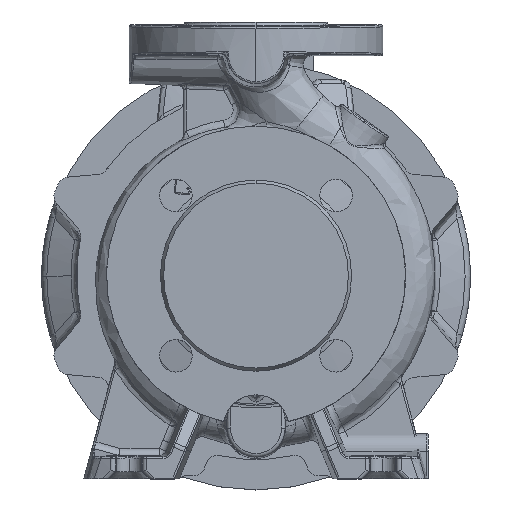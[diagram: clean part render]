
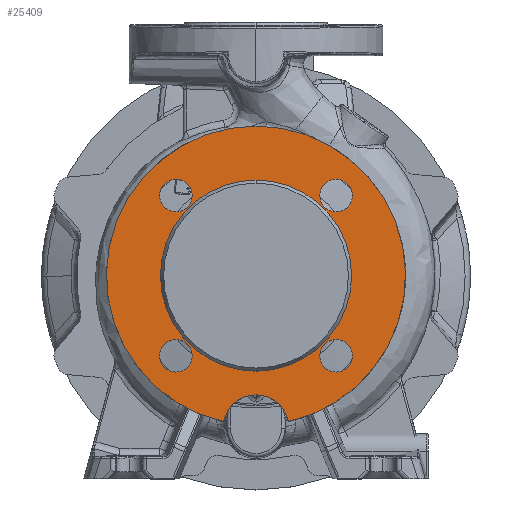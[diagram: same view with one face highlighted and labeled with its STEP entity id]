
A CAD part, top view. The second image highlights one B-rep face of the part: STEP entity #25409.
In plain terms, the highlighted planar face has unit normal (0, 0, 1).
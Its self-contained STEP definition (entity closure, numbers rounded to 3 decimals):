
#777 = VERTEX_POINT ( 'NONE', #36535 ) ;
#1390 = DIRECTION ( 'NONE',  ( 0., 0., -1. ) ) ;
#1797 = CARTESIAN_POINT ( 'NONE',  ( 0., 0., 77. ) ) ;
#2151 = CARTESIAN_POINT ( 'NONE',  ( 44.194, -44.194, 77. ) ) ;
#2339 = DIRECTION ( 'NONE',  ( 0., 0., -1. ) ) ;
#2580 = EDGE_CURVE ( 'NONE', #20222, #44824, #29458, .T. ) ;
#3162 = DIRECTION ( 'NONE',  ( 0., 1., 0. ) ) ;
#4179 = EDGE_CURVE ( 'NONE', #49673, #777, #21700, .T. ) ;
#5679 = FACE_BOUND ( 'NONE', #45994, .T. ) ;
#7008 = VERTEX_POINT ( 'NONE', #53145 ) ;
#7852 = CARTESIAN_POINT ( 'NONE',  ( 0., 0., 77. ) ) ;
#8052 = CIRCLE ( 'NONE', #44493, 52.732 ) ;
#8360 = CARTESIAN_POINT ( 'NONE',  ( -35.194, -44.194, 77. ) ) ;
#8425 = ORIENTED_EDGE ( 'NONE', *, *, #36696, .F. ) ;
#8695 = AXIS2_PLACEMENT_3D ( 'NONE', #1797, #1390, #23789 ) ;
#9381 = DIRECTION ( 'NONE',  ( 0., 0., -1. ) ) ;
#9614 = DIRECTION ( 'NONE',  ( 0., 1., 0. ) ) ;
#10031 = CARTESIAN_POINT ( 'NONE',  ( -44.194, 44.194, 77. ) ) ;
#10103 = EDGE_CURVE ( 'NONE', #777, #49673, #43086, .T. ) ;
#10115 = VERTEX_POINT ( 'NONE', #19150 ) ;
#10507 = AXIS2_PLACEMENT_3D ( 'NONE', #33006, #51494, #47153 ) ;
#11155 = ORIENTED_EDGE ( 'NONE', *, *, #46199, .T. ) ;
#11885 = VERTEX_POINT ( 'NONE', #33508 ) ;
#12420 = EDGE_CURVE ( 'NONE', #7008, #57667, #8052, .T. ) ;
#12558 = EDGE_LOOP ( 'NONE', ( #22058, #40039 ) ) ;
#13225 = AXIS2_PLACEMENT_3D ( 'NONE', #7852, #57607, #17367 ) ;
#13452 = CARTESIAN_POINT ( 'NONE',  ( 44.194, 44.194, 77. ) ) ;
#14702 = AXIS2_PLACEMENT_3D ( 'NONE', #10031, #36804, #50510 ) ;
#15077 = ORIENTED_EDGE ( 'NONE', *, *, #4179, .T. ) ;
#15801 = EDGE_LOOP ( 'NONE', ( #46357, #8425, #28223 ) ) ;
#16114 = CARTESIAN_POINT ( 'NONE',  ( 44.194, -44.194, 77. ) ) ;
#16981 = FACE_BOUND ( 'NONE', #12558, .T. ) ;
#17367 = DIRECTION ( 'NONE',  ( 0., 1., 0. ) ) ;
#17683 = CIRCLE ( 'NONE', #27917, 9. ) ;
#18600 = CIRCLE ( 'NONE', #19880, 9. ) ;
#18853 = EDGE_CURVE ( 'NONE', #57667, #7008, #34411, .T. ) ;
#19150 = CARTESIAN_POINT ( 'NONE',  ( 35.194, -44.194, 77. ) ) ;
#19605 = EDGE_CURVE ( 'NONE', #44824, #51648, #35724, .T. ) ;
#19880 = AXIS2_PLACEMENT_3D ( 'NONE', #16114, #21045, #29953 ) ;
#20222 = VERTEX_POINT ( 'NONE', #45704 ) ;
#20326 = VERTEX_POINT ( 'NONE', #39847 ) ;
#20600 = CARTESIAN_POINT ( 'NONE',  ( -44.194, -44.194, 77. ) ) ;
#21045 = DIRECTION ( 'NONE',  ( 0., 0., -1. ) ) ;
#21700 = CIRCLE ( 'NONE', #10507, 9. ) ;
#22058 = ORIENTED_EDGE ( 'NONE', *, *, #45338, .T. ) ;
#22073 = DIRECTION ( 'NONE',  ( 0., 0., 1. ) ) ;
#22171 = DIRECTION ( 'NONE',  ( 0., 0., -1. ) ) ;
#22930 = CARTESIAN_POINT ( 'NONE',  ( 0., 52.732, 77. ) ) ;
#23046 = CARTESIAN_POINT ( 'NONE',  ( -53.194, -44.194, 77. ) ) ;
#23322 = DIRECTION ( 'NONE',  ( 0., 0., -1. ) ) ;
#23789 = DIRECTION ( 'NONE',  ( 0., 1., 0. ) ) ;
#23984 = ORIENTED_EDGE ( 'NONE', *, *, #18853, .T. ) ;
#24525 = CIRCLE ( 'NONE', #42056, 9. ) ;
#25285 = DIRECTION ( 'NONE',  ( 0., 0., -1. ) ) ;
#25409 = ADVANCED_FACE ( 'NONE', ( #53868, #16981, #51730, #41808, #5679, #36103 ), #40206, .F. ) ;
#26271 = EDGE_LOOP ( 'NONE', ( #15077, #32594 ) ) ;
#26908 = EDGE_LOOP ( 'NONE', ( #35932, #11155 ) ) ;
#27041 = ORIENTED_EDGE ( 'NONE', *, *, #12420, .T. ) ;
#27370 = CARTESIAN_POINT ( 'NONE',  ( 0., -84., 77. ) ) ;
#27420 = CARTESIAN_POINT ( 'NONE',  ( -44.194, -44.194, 77. ) ) ;
#27917 = AXIS2_PLACEMENT_3D ( 'NONE', #52456, #25285, #39356 ) ;
#28223 = ORIENTED_EDGE ( 'NONE', *, *, #19605, .F. ) ;
#29458 = CIRCLE ( 'NONE', #31349, 18.21 ) ;
#29478 = EDGE_CURVE ( 'NONE', #48964, #20326, #48356, .T. ) ;
#29664 = DIRECTION ( 'NONE',  ( 0., 1., 0. ) ) ;
#29953 = DIRECTION ( 'NONE',  ( 0., 1., 0. ) ) ;
#31349 = AXIS2_PLACEMENT_3D ( 'NONE', #27370, #22073, #31718 ) ;
#31718 = DIRECTION ( 'NONE',  ( 0., 1., 0. ) ) ;
#32594 = ORIENTED_EDGE ( 'NONE', *, *, #10103, .T. ) ;
#33006 = CARTESIAN_POINT ( 'NONE',  ( -44.194, 44.194, 77. ) ) ;
#33340 = ORIENTED_EDGE ( 'NONE', *, *, #58364, .T. ) ;
#33508 = CARTESIAN_POINT ( 'NONE',  ( 53.194, -44.194, 77. ) ) ;
#34411 = CIRCLE ( 'NONE', #13225, 52.732 ) ;
#35443 = ORIENTED_EDGE ( 'NONE', *, *, #42276, .T. ) ;
#35724 = CIRCLE ( 'NONE', #8695, 82.5 ) ;
#35932 = ORIENTED_EDGE ( 'NONE', *, *, #29478, .T. ) ;
#36103 = FACE_BOUND ( 'NONE', #26271, .T. ) ;
#36535 = CARTESIAN_POINT ( 'NONE',  ( -53.194, 44.194, 77. ) ) ;
#36696 = EDGE_CURVE ( 'NONE', #51648, #20222, #56181, .T. ) ;
#36804 = DIRECTION ( 'NONE',  ( 0., 0., -1. ) ) ;
#37200 = EDGE_CURVE ( 'NONE', #10115, #11885, #24525, .T. ) ;
#37526 = DIRECTION ( 'NONE',  ( 0., 1., 0. ) ) ;
#39356 = DIRECTION ( 'NONE',  ( 0., 1., 0. ) ) ;
#39847 = CARTESIAN_POINT ( 'NONE',  ( 35.194, 44.194, 77. ) ) ;
#40039 = ORIENTED_EDGE ( 'NONE', *, *, #37200, .T. ) ;
#40206 = PLANE ( 'NONE',  #53861 ) ;
#41126 = DIRECTION ( 'NONE',  ( 0., 1., 0. ) ) ;
#41808 = FACE_OUTER_BOUND ( 'NONE', #15801, .T. ) ;
#41966 = AXIS2_PLACEMENT_3D ( 'NONE', #13452, #58832, #49376 ) ;
#42056 = AXIS2_PLACEMENT_3D ( 'NONE', #2151, #2339, #29664 ) ;
#42143 = EDGE_LOOP ( 'NONE', ( #27041, #23984 ) ) ;
#42276 = EDGE_CURVE ( 'NONE', #56369, #55312, #45372, .T. ) ;
#43086 = CIRCLE ( 'NONE', #14702, 9. ) ;
#44493 = AXIS2_PLACEMENT_3D ( 'NONE', #58250, #48792, #3162 ) ;
#44824 = VERTEX_POINT ( 'NONE', #47568 ) ;
#44968 = AXIS2_PLACEMENT_3D ( 'NONE', #20600, #22171, #49363 ) ;
#45338 = EDGE_CURVE ( 'NONE', #11885, #10115, #18600, .T. ) ;
#45372 = CIRCLE ( 'NONE', #58420, 9. ) ;
#45704 = CARTESIAN_POINT ( 'NONE',  ( 17.878, -80.54, 77. ) ) ;
#45994 = EDGE_LOOP ( 'NONE', ( #33340, #35443 ) ) ;
#46199 = EDGE_CURVE ( 'NONE', #20326, #48964, #17683, .T. ) ;
#46357 = ORIENTED_EDGE ( 'NONE', *, *, #2580, .F. ) ;
#46588 = AXIS2_PLACEMENT_3D ( 'NONE', #46701, #46910, #37526 ) ;
#46701 = CARTESIAN_POINT ( 'NONE',  ( 0., 0., 77. ) ) ;
#46910 = DIRECTION ( 'NONE',  ( 0., 0., -1. ) ) ;
#47153 = DIRECTION ( 'NONE',  ( 0., 1., 0. ) ) ;
#47568 = CARTESIAN_POINT ( 'NONE',  ( -17.878, -80.54, 77. ) ) ;
#48356 = CIRCLE ( 'NONE', #41966, 9. ) ;
#48792 = DIRECTION ( 'NONE',  ( 0., 0., -1. ) ) ;
#48964 = VERTEX_POINT ( 'NONE', #54038 ) ;
#49363 = DIRECTION ( 'NONE',  ( 0., 1., 0. ) ) ;
#49376 = DIRECTION ( 'NONE',  ( 0., 1., 0. ) ) ;
#49673 = VERTEX_POINT ( 'NONE', #57346 ) ;
#50510 = DIRECTION ( 'NONE',  ( 0., 1., 0. ) ) ;
#51494 = DIRECTION ( 'NONE',  ( 0., 0., -1. ) ) ;
#51648 = VERTEX_POINT ( 'NONE', #58294 ) ;
#51730 = FACE_BOUND ( 'NONE', #26908, .T. ) ;
#52456 = CARTESIAN_POINT ( 'NONE',  ( 44.194, 44.194, 77. ) ) ;
#53051 = CARTESIAN_POINT ( 'NONE',  ( 0., -52.732, 77. ) ) ;
#53145 = CARTESIAN_POINT ( 'NONE',  ( 0., 52.732, 77. ) ) ;
#53861 = AXIS2_PLACEMENT_3D ( 'NONE', #22930, #23322, #9614 ) ;
#53868 = FACE_BOUND ( 'NONE', #42143, .T. ) ;
#54038 = CARTESIAN_POINT ( 'NONE',  ( 53.194, 44.194, 77. ) ) ;
#55312 = VERTEX_POINT ( 'NONE', #8360 ) ;
#56181 = CIRCLE ( 'NONE', #46588, 82.5 ) ;
#56369 = VERTEX_POINT ( 'NONE', #23046 ) ;
#56380 = CIRCLE ( 'NONE', #44968, 9. ) ;
#57346 = CARTESIAN_POINT ( 'NONE',  ( -35.194, 44.194, 77. ) ) ;
#57607 = DIRECTION ( 'NONE',  ( 0., 0., -1. ) ) ;
#57667 = VERTEX_POINT ( 'NONE', #53051 ) ;
#58250 = CARTESIAN_POINT ( 'NONE',  ( 0., 0., 77. ) ) ;
#58294 = CARTESIAN_POINT ( 'NONE',  ( 0., 82.5, 77. ) ) ;
#58364 = EDGE_CURVE ( 'NONE', #55312, #56369, #56380, .T. ) ;
#58420 = AXIS2_PLACEMENT_3D ( 'NONE', #27420, #9381, #41126 ) ;
#58832 = DIRECTION ( 'NONE',  ( 0., 0., -1. ) ) ;
